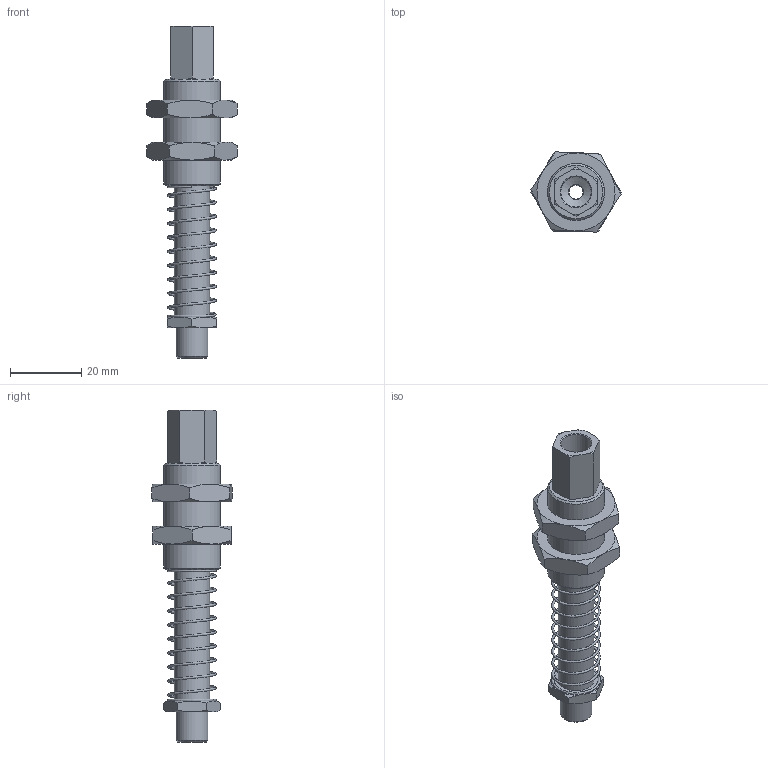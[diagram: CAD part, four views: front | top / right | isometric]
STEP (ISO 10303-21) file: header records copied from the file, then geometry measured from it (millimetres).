
FILE_DESCRIPTION((''),'2;1');
FILE_NAME('W:\Technik\Konstruktion\CAD-Daten\Vakuumkomponenten\50... - 55\50.160\50.160.stp','2014-08-04T09:34:29',('MOswald'),(''),'Autodesk Inventor 2012','Autodesk Inventor 2012','');
FILE_SCHEMA(('AUTOMOTIVE_DESIGN { 1 0 10303 214 1 1 1 1 }'));
Length unit declared in the file: millimetre
Products named in the file (3): 50
Assembly tree (3 placements, depth 2):
  50
    50
    50  x2
Bounding box: 25.4 x 22.63 x 93.5 mm (x, y, z)
Volume: 12730.8 mm3; surface area: 8323.5 mm2
Topology: 3 solids, 3 shells, 103 faces, 246 edges, 153 vertices
Faces by surface type: cone 59, plane 36, cylinder 7, bspline 1
Full cylindrical faces by diameter (mm): 4 x1, 8.566 x1, 9 x1, 10 x1, 14.917 x2, 16 x1
Entity records: 3780 total; most frequent: CARTESIAN_POINT 2043, ORIENTED_EDGE 358, DIRECTION 334, EDGE_CURVE 179, AXIS2_PLACEMENT_3D 145, VERTEX_POINT 122, EDGE_LOOP 105, FACE_OUTER_BOUND 80
